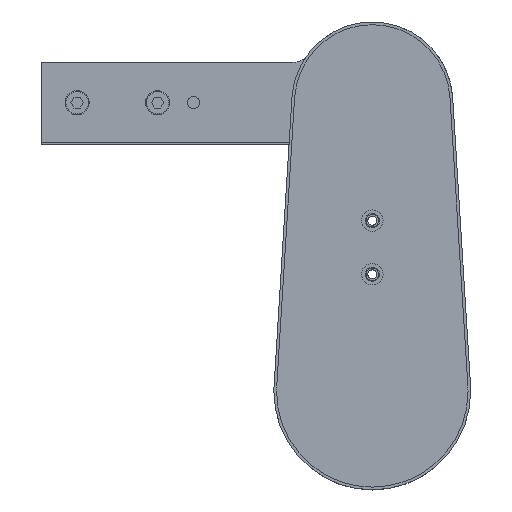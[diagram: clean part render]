
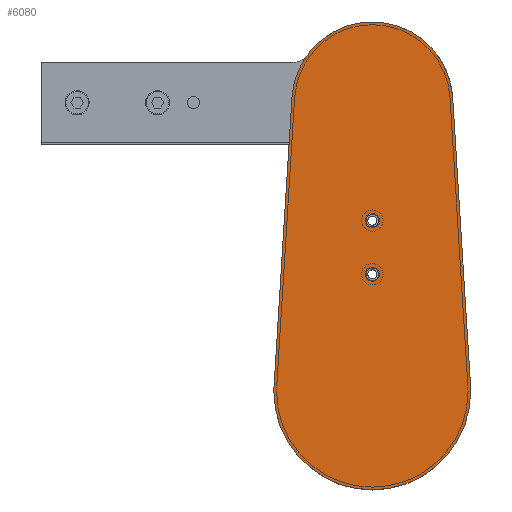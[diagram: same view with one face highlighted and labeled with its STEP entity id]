
A CAD part, top view. The second image highlights one B-rep face of the part: STEP entity #6080.
In plain terms, the highlighted planar face has unit normal (0, 0, 1) as drawn and (0, 0, -1) by its records, which use the part's own axes.
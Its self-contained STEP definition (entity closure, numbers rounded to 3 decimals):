
#4374 = ORIENTED_EDGE ( 'NONE', *, *, #72866, .F. ) ;
#5013 = CIRCLE ( 'NONE', #77899, 55. ) ;
#6080 = ADVANCED_FACE ( 'NONE', ( #47318, #13703, #26552 ), #41926, .F. ) ;
#7903 = DIRECTION ( 'NONE',  ( 0., 0., -1. ) ) ;
#8326 = VERTEX_POINT ( 'NONE', #70710 ) ;
#10662 = CARTESIAN_POINT ( 'NONE',  ( -3.5, 95.5, 0. ) ) ;
#10847 = CARTESIAN_POINT ( 'NONE',  ( -55., 0., 0. ) ) ;
#10928 = VERTEX_POINT ( 'NONE', #63200 ) ;
#12149 = VERTEX_POINT ( 'NONE', #33121 ) ;
#12202 = ORIENTED_EDGE ( 'NONE', *, *, #22101, .F. ) ;
#12473 = CARTESIAN_POINT ( 'NONE',  ( 0., 161.5, 0. ) ) ;
#13661 = CARTESIAN_POINT ( 'NONE',  ( 44.914, 164.286, 0. ) ) ;
#13703 = FACE_BOUND ( 'NONE', #27544, .T. ) ;
#14807 = CARTESIAN_POINT ( 'NONE',  ( 0., 95.5, 0. ) ) ;
#15632 = CIRCLE ( 'NONE', #75476, 3.5 ) ;
#17700 = CIRCLE ( 'NONE', #41083, 3.5 ) ;
#18539 = DIRECTION ( 'NONE',  ( 1., 0., 0. ) ) ;
#19927 = AXIS2_PLACEMENT_3D ( 'NONE', #54589, #23388, #69913 ) ;
#20027 = CARTESIAN_POINT ( 'NONE',  ( 0., 65.5, 0. ) ) ;
#20280 = ORIENTED_EDGE ( 'NONE', *, *, #65856, .F. ) ;
#21066 = VECTOR ( 'NONE', #44325, 1000. ) ;
#21183 = CARTESIAN_POINT ( 'NONE',  ( -3.5, 65.5, 0. ) ) ;
#22094 = EDGE_LOOP ( 'NONE', ( #4374, #48619, #27007, #42104, #70998, #71813 ) ) ;
#22101 = EDGE_CURVE ( 'NONE', #62680, #12149, #17700, .T. ) ;
#23137 = VERTEX_POINT ( 'NONE', #64475 ) ;
#23388 = DIRECTION ( 'NONE',  ( 0., 0., 1. ) ) ;
#25363 = CIRCLE ( 'NONE', #59268, 55. ) ;
#25610 = DIRECTION ( 'NONE',  ( 1., 0., 0. ) ) ;
#26552 = FACE_OUTER_BOUND ( 'NONE', #22094, .T. ) ;
#26750 = EDGE_CURVE ( 'NONE', #8326, #10928, #25363, .T. ) ;
#27007 = ORIENTED_EDGE ( 'NONE', *, *, #26750, .F. ) ;
#27544 = EDGE_LOOP ( 'NONE', ( #20280, #38454 ) ) ;
#27889 = LINE ( 'NONE', #13661, #76199 ) ;
#29485 = CIRCLE ( 'NONE', #46110, 55. ) ;
#30219 = DIRECTION ( 'NONE',  ( 1., 0., 0. ) ) ;
#30606 = EDGE_LOOP ( 'NONE', ( #38718, #12202 ) ) ;
#31397 = DIRECTION ( 'NONE',  ( 0., 0., 1. ) ) ;
#31705 = DIRECTION ( 'NONE',  ( 1., 0., 0. ) ) ;
#31798 = DIRECTION ( 'NONE',  ( 1., 0., 0. ) ) ;
#33121 = CARTESIAN_POINT ( 'NONE',  ( 3.5, 95.5, 0. ) ) ;
#33595 = VERTEX_POINT ( 'NONE', #21183 ) ;
#34309 = CARTESIAN_POINT ( 'NONE',  ( -54.894, 3.406, 0. ) ) ;
#35338 = AXIS2_PLACEMENT_3D ( 'NONE', #12473, #50551, #31798 ) ;
#37628 = DIRECTION ( 'NONE',  ( 0., 0., -1. ) ) ;
#38454 = ORIENTED_EDGE ( 'NONE', *, *, #40273, .F. ) ;
#38718 = ORIENTED_EDGE ( 'NONE', *, *, #52397, .F. ) ;
#38784 = CARTESIAN_POINT ( 'NONE',  ( -44.914, 164.286, 0. ) ) ;
#38855 = CARTESIAN_POINT ( 'NONE',  ( 0., 0., 0. ) ) ;
#39153 = CARTESIAN_POINT ( 'NONE',  ( 0., 0., 0. ) ) ;
#39159 = CIRCLE ( 'NONE', #67676, 3.5 ) ;
#40273 = EDGE_CURVE ( 'NONE', #33595, #74096, #39159, .T. ) ;
#41083 = AXIS2_PLACEMENT_3D ( 'NONE', #75100, #43445, #18539 ) ;
#41926 = PLANE ( 'NONE',  #19927 ) ;
#42104 = ORIENTED_EDGE ( 'NONE', *, *, #68096, .F. ) ;
#42771 = EDGE_CURVE ( 'NONE', #10928, #23137, #27889, .T. ) ;
#43445 = DIRECTION ( 'NONE',  ( 0., 0., -1. ) ) ;
#44325 = DIRECTION ( 'NONE',  ( -0.062, -0.998, 0. ) ) ;
#44407 = CARTESIAN_POINT ( 'NONE',  ( -44.914, 164.286, 0. ) ) ;
#44697 = DIRECTION ( 'NONE',  ( 0., 0., 1. ) ) ;
#44879 = DIRECTION ( 'NONE',  ( -0.062, 0.998, 0. ) ) ;
#45665 = CIRCLE ( 'NONE', #68662, 3.5 ) ;
#46110 = AXIS2_PLACEMENT_3D ( 'NONE', #38855, #31397, #25610 ) ;
#47318 = FACE_BOUND ( 'NONE', #30606, .T. ) ;
#48619 = ORIENTED_EDGE ( 'NONE', *, *, #42771, .F. ) ;
#49708 = EDGE_CURVE ( 'NONE', #52993, #60457, #5013, .T. ) ;
#50551 = DIRECTION ( 'NONE',  ( 0., 0., 1. ) ) ;
#52397 = EDGE_CURVE ( 'NONE', #12149, #62680, #15632, .T. ) ;
#52993 = VERTEX_POINT ( 'NONE', #34309 ) ;
#54589 = CARTESIAN_POINT ( 'NONE',  ( 0., 161.5, 0. ) ) ;
#56053 = CARTESIAN_POINT ( 'NONE',  ( 3.5, 65.5, 0. ) ) ;
#58309 = DIRECTION ( 'NONE',  ( 1., 0., 0. ) ) ;
#58920 = DIRECTION ( 'NONE',  ( 0., 0., -1. ) ) ;
#59268 = AXIS2_PLACEMENT_3D ( 'NONE', #39153, #44697, #31705 ) ;
#60056 = EDGE_CURVE ( 'NONE', #73412, #52993, #70449, .T. ) ;
#60457 = VERTEX_POINT ( 'NONE', #10847 ) ;
#61923 = CIRCLE ( 'NONE', #35338, 45. ) ;
#62680 = VERTEX_POINT ( 'NONE', #10662 ) ;
#63200 = CARTESIAN_POINT ( 'NONE',  ( 54.894, 3.406, 0. ) ) ;
#64475 = CARTESIAN_POINT ( 'NONE',  ( 44.914, 164.286, 0. ) ) ;
#65856 = EDGE_CURVE ( 'NONE', #74096, #33595, #45665, .T. ) ;
#67676 = AXIS2_PLACEMENT_3D ( 'NONE', #81472, #37628, #30219 ) ;
#68096 = EDGE_CURVE ( 'NONE', #60457, #8326, #29485, .T. ) ;
#68662 = AXIS2_PLACEMENT_3D ( 'NONE', #20027, #7903, #77384 ) ;
#69913 = DIRECTION ( 'NONE',  ( 1., 0., 0. ) ) ;
#70449 = LINE ( 'NONE', #38784, #21066 ) ;
#70522 = DIRECTION ( 'NONE',  ( 1., 0., 0. ) ) ;
#70710 = CARTESIAN_POINT ( 'NONE',  ( 55., 0., 0. ) ) ;
#70998 = ORIENTED_EDGE ( 'NONE', *, *, #49708, .F. ) ;
#71234 = DIRECTION ( 'NONE',  ( 0., 0., 1. ) ) ;
#71813 = ORIENTED_EDGE ( 'NONE', *, *, #60056, .F. ) ;
#72866 = EDGE_CURVE ( 'NONE', #23137, #73412, #61923, .T. ) ;
#73412 = VERTEX_POINT ( 'NONE', #44407 ) ;
#74096 = VERTEX_POINT ( 'NONE', #56053 ) ;
#75100 = CARTESIAN_POINT ( 'NONE',  ( 0., 95.5, 0. ) ) ;
#75476 = AXIS2_PLACEMENT_3D ( 'NONE', #14807, #58920, #70522 ) ;
#76199 = VECTOR ( 'NONE', #44879, 1000. ) ;
#77384 = DIRECTION ( 'NONE',  ( 1., 0., 0. ) ) ;
#77578 = CARTESIAN_POINT ( 'NONE',  ( 0., 0., 0. ) ) ;
#77899 = AXIS2_PLACEMENT_3D ( 'NONE', #77578, #71234, #58309 ) ;
#81472 = CARTESIAN_POINT ( 'NONE',  ( 0., 65.5, 0. ) ) ;
